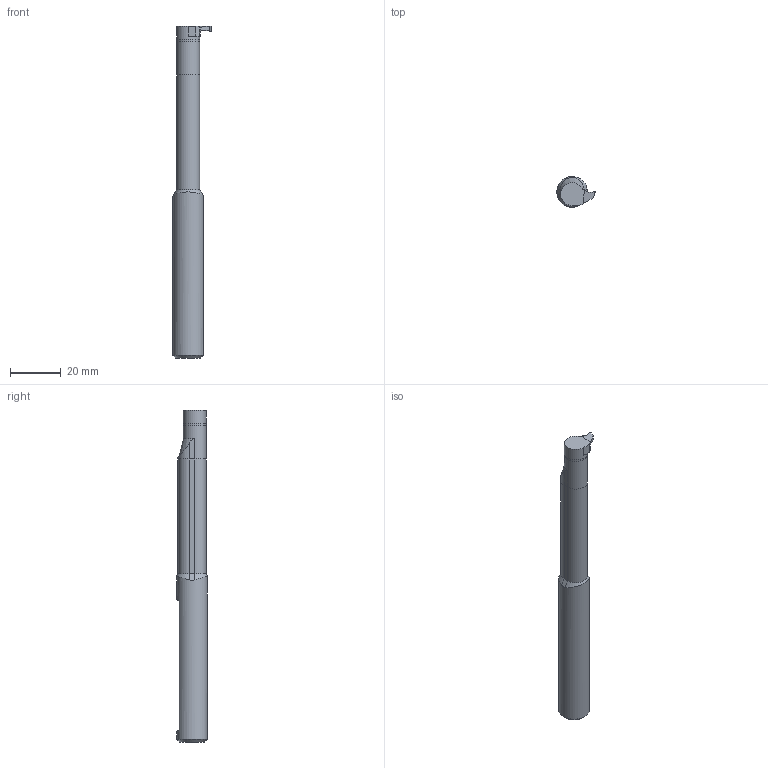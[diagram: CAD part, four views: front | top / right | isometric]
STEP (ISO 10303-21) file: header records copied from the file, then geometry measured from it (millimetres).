
FILE_DESCRIPTION(/* description */ (''),/* implementation_level */ '2;1');
FILE_NAME(/* name */ 'NFTIH14312C-HAAS.stp',/* time_stamp */ '2021-09-17T11:23:32+09:00',/* author */ (''),/* organization */ (''),/* preprocessor_version */ 'ST-DEVELOPER v16.7',/* originating_system */ 'SIEMENS PLM Software NX 1946',/* authorisation */ '');
FILE_SCHEMA (('AUTOMOTIVE_DESIGN { 1 0 10303 214 3 1 1 1 }'));
Length unit declared in the file: millimetre
Products named in the file (1): user17E0F477jwl2
Bounding box: 15 x 12 x 130.22 mm (x, y, z)
Volume: 12250.7 mm3; surface area: 5015.9 mm2
Topology: 3 solids, 4 shells, 45 faces, 105 edges, 68 vertices
Faces by surface type: plane 30, cylinder 10, cone 5
Full cylindrical faces by diameter (mm): 9 x2, 12 x1
Entity records: 1298 total; most frequent: CARTESIAN_POINT 248, DIRECTION 214, ORIENTED_EDGE 192, EDGE_CURVE 96, AXIS2_PLACEMENT_3D 77, VERTEX_POINT 65, LINE 60, VECTOR 60
